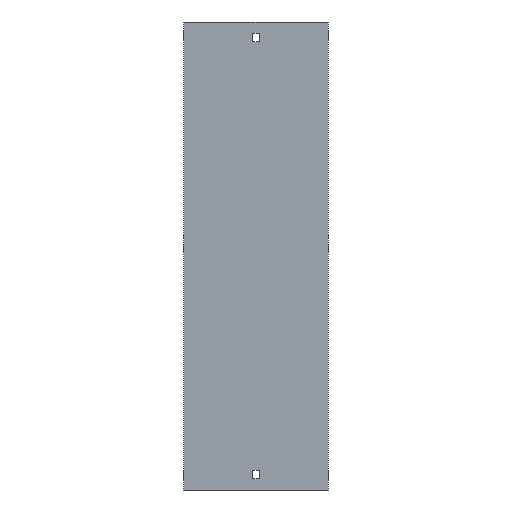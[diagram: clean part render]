
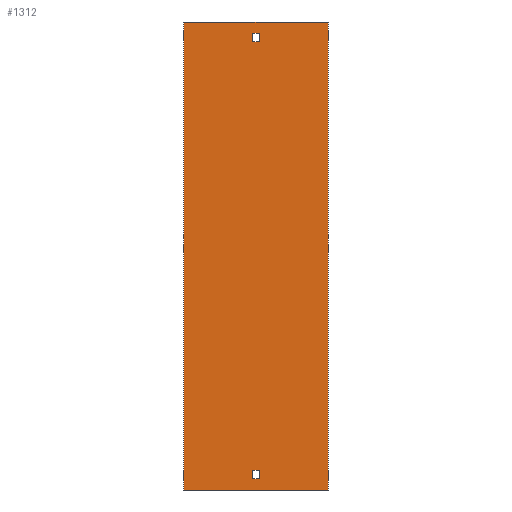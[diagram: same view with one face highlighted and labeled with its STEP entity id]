
A CAD part, front view. The second image highlights one B-rep face of the part: STEP entity #1312.
In plain terms, the highlighted planar face has unit normal (0, -1, 0).
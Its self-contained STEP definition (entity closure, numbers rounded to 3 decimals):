
#2 = LINE ( 'NONE', #896, #854 ) ;
#3 = CARTESIAN_POINT ( 'NONE',  ( 3.25, 0., -238. ) ) ;
#54 = EDGE_CURVE ( 'NONE', #1025, #1604, #381, .T. ) ;
#59 = FACE_BOUND ( 'NONE', #520, .T. ) ;
#65 = CARTESIAN_POINT ( 'NONE',  ( 3.25, 0., 229. ) ) ;
#120 = ORIENTED_EDGE ( 'NONE', *, *, #1084, .T. ) ;
#124 = CARTESIAN_POINT ( 'NONE',  ( -77., 0., 250. ) ) ;
#125 = VECTOR ( 'NONE', #1637, 1000. ) ;
#139 = CARTESIAN_POINT ( 'NONE',  ( -77., 0., 250. ) ) ;
#151 = CARTESIAN_POINT ( 'NONE',  ( 3.25, 0., 238. ) ) ;
#154 = DIRECTION ( 'NONE',  ( 0., 0., -1. ) ) ;
#155 = ORIENTED_EDGE ( 'NONE', *, *, #1060, .F. ) ;
#198 = CARTESIAN_POINT ( 'NONE',  ( 77., 0., 250. ) ) ;
#204 = CARTESIAN_POINT ( 'NONE',  ( -77., 0., -250. ) ) ;
#219 = CARTESIAN_POINT ( 'NONE',  ( 77., 0., 250. ) ) ;
#232 = DIRECTION ( 'NONE',  ( 0., 0., -1. ) ) ;
#237 = VECTOR ( 'NONE', #399, 1000. ) ;
#243 = DIRECTION ( 'NONE',  ( -1., 0., 0. ) ) ;
#267 = CARTESIAN_POINT ( 'NONE',  ( 3.25, 0., 238. ) ) ;
#316 = VECTOR ( 'NONE', #154, 1000. ) ;
#320 = PLANE ( 'NONE',  #1454 ) ;
#363 = CARTESIAN_POINT ( 'NONE',  ( 3.25, 0., -238. ) ) ;
#381 = LINE ( 'NONE', #1418, #1638 ) ;
#387 = EDGE_CURVE ( 'NONE', #692, #414, #1126, .T. ) ;
#399 = DIRECTION ( 'NONE',  ( 1., 0., 0. ) ) ;
#403 = ORIENTED_EDGE ( 'NONE', *, *, #587, .T. ) ;
#408 = LINE ( 'NONE', #418, #237 ) ;
#413 = EDGE_CURVE ( 'NONE', #1352, #1518, #1326, .T. ) ;
#414 = VERTEX_POINT ( 'NONE', #1673 ) ;
#418 = CARTESIAN_POINT ( 'NONE',  ( -77., 0., 250. ) ) ;
#442 = LINE ( 'NONE', #978, #1343 ) ;
#482 = ORIENTED_EDGE ( 'NONE', *, *, #1185, .F. ) ;
#520 = EDGE_LOOP ( 'NONE', ( #1220, #583, #120, #403 ) ) ;
#522 = CARTESIAN_POINT ( 'NONE',  ( 3.25, 0., -229. ) ) ;
#544 = VERTEX_POINT ( 'NONE', #1577 ) ;
#551 = LINE ( 'NONE', #944, #316 ) ;
#555 = VERTEX_POINT ( 'NONE', #3 ) ;
#576 = DIRECTION ( 'NONE',  ( -1., 0., 0. ) ) ;
#582 = DIRECTION ( 'NONE',  ( 1., 0., 0. ) ) ;
#583 = ORIENTED_EDGE ( 'NONE', *, *, #898, .T. ) ;
#587 = EDGE_CURVE ( 'NONE', #555, #1025, #442, .T. ) ;
#604 = ORIENTED_EDGE ( 'NONE', *, *, #986, .F. ) ;
#620 = VECTOR ( 'NONE', #1502, 1000. ) ;
#651 = LINE ( 'NONE', #139, #1431 ) ;
#691 = ORIENTED_EDGE ( 'NONE', *, *, #1609, .F. ) ;
#692 = VERTEX_POINT ( 'NONE', #198 ) ;
#709 = LINE ( 'NONE', #204, #753 ) ;
#750 = VERTEX_POINT ( 'NONE', #1395 ) ;
#753 = VECTOR ( 'NONE', #582, 1000. ) ;
#794 = VERTEX_POINT ( 'NONE', #124 ) ;
#797 = DIRECTION ( 'NONE',  ( 0., 0., 1. ) ) ;
#837 = CARTESIAN_POINT ( 'NONE',  ( -3.25, 0., -238. ) ) ;
#854 = VECTOR ( 'NONE', #909, 1000. ) ;
#896 = CARTESIAN_POINT ( 'NONE',  ( -3.25, 0., -229. ) ) ;
#898 = EDGE_CURVE ( 'NONE', #1604, #1173, #2, .T. ) ;
#909 = DIRECTION ( 'NONE',  ( 1., 0., 0. ) ) ;
#923 = ORIENTED_EDGE ( 'NONE', *, *, #1266, .T. ) ;
#944 = CARTESIAN_POINT ( 'NONE',  ( -3.25, 0., 238. ) ) ;
#951 = CARTESIAN_POINT ( 'NONE',  ( -3.25, 0., 238. ) ) ;
#967 = VERTEX_POINT ( 'NONE', #951 ) ;
#975 = CARTESIAN_POINT ( 'NONE',  ( -3.25, 0., 229. ) ) ;
#978 = CARTESIAN_POINT ( 'NONE',  ( -3.25, 0., -238. ) ) ;
#986 = EDGE_CURVE ( 'NONE', #750, #1352, #1381, .T. ) ;
#1000 = EDGE_CURVE ( 'NONE', #544, #414, #709, .T. ) ;
#1019 = VECTOR ( 'NONE', #797, 1000. ) ;
#1025 = VERTEX_POINT ( 'NONE', #837 ) ;
#1060 = EDGE_CURVE ( 'NONE', #1518, #967, #1294, .T. ) ;
#1064 = EDGE_LOOP ( 'NONE', ( #1151, #1434, #691, #923 ) ) ;
#1065 = DIRECTION ( 'NONE',  ( 0., 0., 1. ) ) ;
#1066 = CARTESIAN_POINT ( 'NONE',  ( -3.25, 0., -229. ) ) ;
#1069 = VECTOR ( 'NONE', #232, 1000. ) ;
#1077 = CARTESIAN_POINT ( 'NONE',  ( -77., 0., 250. ) ) ;
#1083 = ORIENTED_EDGE ( 'NONE', *, *, #413, .F. ) ;
#1084 = EDGE_CURVE ( 'NONE', #1173, #555, #1526, .T. ) ;
#1126 = LINE ( 'NONE', #219, #1069 ) ;
#1151 = ORIENTED_EDGE ( 'NONE', *, *, #1000, .T. ) ;
#1173 = VERTEX_POINT ( 'NONE', #522 ) ;
#1182 = VECTOR ( 'NONE', #243, 1000. ) ;
#1185 = EDGE_CURVE ( 'NONE', #967, #750, #551, .T. ) ;
#1202 = FACE_OUTER_BOUND ( 'NONE', #1064, .T. ) ;
#1220 = ORIENTED_EDGE ( 'NONE', *, *, #54, .T. ) ;
#1240 = DIRECTION ( 'NONE',  ( -1., 0., 0. ) ) ;
#1266 = EDGE_CURVE ( 'NONE', #794, #544, #651, .T. ) ;
#1294 = LINE ( 'NONE', #1662, #1182 ) ;
#1306 = DIRECTION ( 'NONE',  ( 0., 0., -1. ) ) ;
#1312 = ADVANCED_FACE ( 'NONE', ( #1202, #1367, #59 ), #320, .F. ) ;
#1326 = LINE ( 'NONE', #267, #1019 ) ;
#1343 = VECTOR ( 'NONE', #576, 1000. ) ;
#1352 = VERTEX_POINT ( 'NONE', #65 ) ;
#1356 = DIRECTION ( 'NONE',  ( 0., 1., 0. ) ) ;
#1367 = FACE_BOUND ( 'NONE', #1593, .T. ) ;
#1381 = LINE ( 'NONE', #975, #620 ) ;
#1395 = CARTESIAN_POINT ( 'NONE',  ( -3.25, 0., 229. ) ) ;
#1418 = CARTESIAN_POINT ( 'NONE',  ( -3.25, 0., -238. ) ) ;
#1431 = VECTOR ( 'NONE', #1306, 1000. ) ;
#1434 = ORIENTED_EDGE ( 'NONE', *, *, #387, .F. ) ;
#1454 = AXIS2_PLACEMENT_3D ( 'NONE', #1077, #1356, #1240 ) ;
#1502 = DIRECTION ( 'NONE',  ( 1., 0., 0. ) ) ;
#1518 = VERTEX_POINT ( 'NONE', #151 ) ;
#1526 = LINE ( 'NONE', #363, #125 ) ;
#1577 = CARTESIAN_POINT ( 'NONE',  ( -77., 0., -250. ) ) ;
#1593 = EDGE_LOOP ( 'NONE', ( #604, #482, #155, #1083 ) ) ;
#1604 = VERTEX_POINT ( 'NONE', #1066 ) ;
#1609 = EDGE_CURVE ( 'NONE', #794, #692, #408, .T. ) ;
#1637 = DIRECTION ( 'NONE',  ( 0., 0., -1. ) ) ;
#1638 = VECTOR ( 'NONE', #1065, 1000. ) ;
#1662 = CARTESIAN_POINT ( 'NONE',  ( -3.25, 0., 238. ) ) ;
#1673 = CARTESIAN_POINT ( 'NONE',  ( 77., 0., -250. ) ) ;
